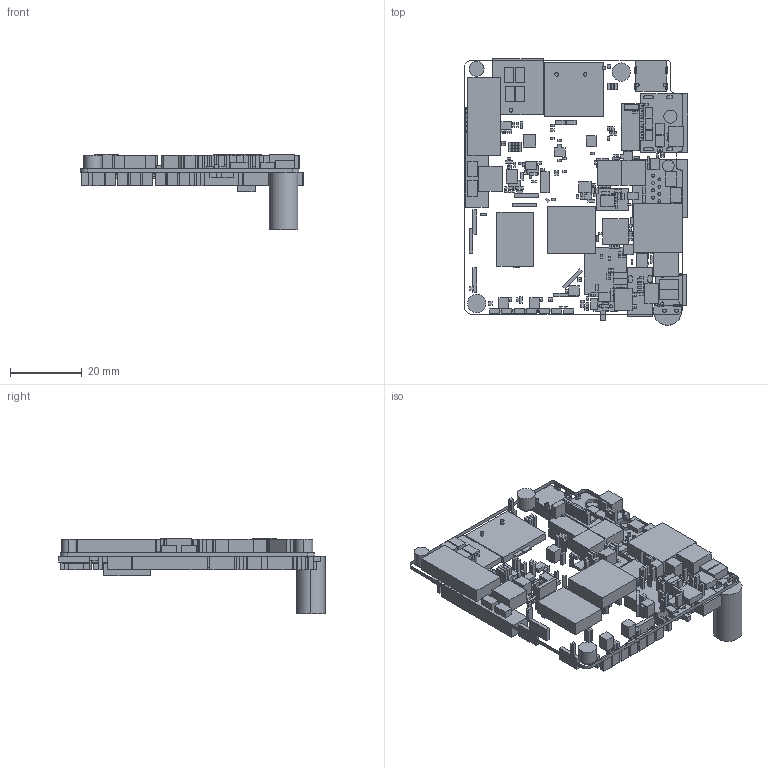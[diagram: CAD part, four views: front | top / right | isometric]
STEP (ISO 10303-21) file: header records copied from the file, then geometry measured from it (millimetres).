
FILE_DESCRIPTION(/* description */ ('PCB Design'),/* implementation_level */ '2;1');
FILE_NAME(/* name */ 'H29K-V1_3-20250209',/* time_stamp */ '2025-03-01T09:04:13+08:00',/* author */ ('caoweiwei'),/* organization */ (''),/* preprocessor_version */ 'ST-DEVELOPER v15',/* originating_system */ 'allegro_16.6-2015S112',/* authorisation */ '');
FILE_SCHEMA (('AUTOMOTIVE_DESIGN'));
Length unit declared in the file: millimetre
Products named in the file (64): H29K-V1_3-20250209; BOARD; COMPONENTS; SMT_1M25_12_OS; SW-SMD_TS-1086E-AC03526; VSSOP-8; RJ4508P-A004; SW-SMD_SK-3296S-01-L3; R0805; SOD_523; CAP-DIP-8X16; IND_303015; QFN18-2X3; LED0603W; HDMIA19_HDMI_01A; TP_1R50; SMT_1M25_6_LS; H2MM3_4MM; QFN40_5R00X5R00X0R90_T-1; FPC_05MM_8PIN_2MM; FUSE1812; TP_0R50; C0402_BGA; ESSOP10-5X6-1P00-PAD; SOT_23; LC0402SN; LC0403SN; C1206; SOD_323; M2_NGFF_B_KEY-1H; USB-C-SMD_TYPEC-324G-BCP24; USB-TH_USB-265-BRY; FIXED; SMAF; IND-SMD_L7_0-W6_6; ESD0402; C1210; MSOP10_3X5; SIM-SMD_XKNANO-113; QFN_13_2M5X3M0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
Assembly tree (355 placements, depth 3):
  H29K-V1_3-20250209
    BOARD
    COMPONENTS
      SMT_1M25_12_OS
      SW-SMD_TS-1086E-AC03526
      VSSOP-8
      RJ4508P-A004
      SW-SMD_SK-3296S-01-L3
      R0805
      SOD_523
      CAP-DIP-8X16
      IND_303015
      QFN18-2X3
      LED0603W  x7
      HDMIA19_HDMI_01A
      TP_1R50  x3
      SMT_1M25_6_LS
      H2MM3_4MM
      QFN40_5R00X5R00X0R90_T-1
      FPC_05MM_8PIN_2MM
      FUSE1812
      TP_0R50
      C0402_BGA  x6
      ESSOP10-5X6-1P00-PAD
      SOT_23  x2
      LC0402SN  x4
      LC0403SN  x4
      C1206
      SOD_323  x3
      M2_NGFF_B_KEY-1H
      USB-C-SMD_TYPEC-324G-BCP24  x2
      USB-TH_USB-265-BRY
      FIXED
      SMAF  x2
      IND-SMD_L7_0-W6_6  x4
      ESD0402
      C1210  x6
      MSOP10_3X5
      SIM-SMD_XKNANO-113
      QFN_13_2M5X3M0  x3
      TF-CKT01-009D
      M3  x2
      OPTO-SMD_IRM-V838M3-C-TR1
      UDFN8L-2X3-0P50-PAD
      SHIELD-1  x7
      CRY4_2R50X2R00X0R55  x2
      IPEX_4MM_3MM  x2
      SKI-WB800D80S-QFN44
      ESD2510H0_75  x4
      SON10_2R50X1R00X0R50  x2
      MARK1_0  x4
      SR0402
      SR0201  x19
      IND_252012  x5
      SC0201  x10
      DFN1006-2LO-N  x7
      SC0402  x11
      SC0603  x9
      SOT_323  x10
      BGA153_13RX11R5X0R9_2L
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Bounding box: 62.32 x 74.4 x 21 mm (x, y, z)
Surface area: 24934.6 mm2 (no closed solid volume)
Topology: 0 solids, 354 shells, 2262 faces, 5077 edges, 3116 vertices
Faces by surface type: plane 2150, cylinder 112
Entity records: 18239 total; most frequent: ORIENTED_EDGE 2322, DIRECTION 2040, CARTESIAN_POINT 1648, AXIS2_PLACEMENT_3D 1433, EDGE_CURVE 1262, VECTOR 1050, LINE 1050, VERTEX_POINT 976
